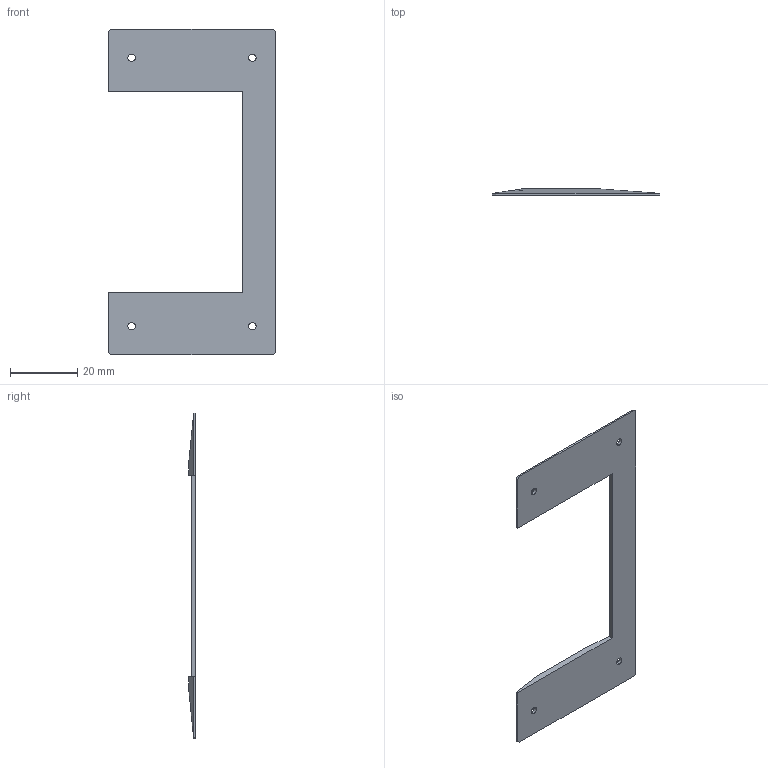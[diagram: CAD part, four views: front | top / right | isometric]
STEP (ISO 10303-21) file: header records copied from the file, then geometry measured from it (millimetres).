
FILE_DESCRIPTION((''),'2;1');
FILE_NAME('OP3_UPPER_FOOT_CASE_VER1','2017-07-25T',('kimdolyang'),(''),'PRO/ENGINEER BY PARAMETRIC TECHNOLOGY CORPORATION, 2013410','PRO/ENGINEER BY PARAMETRIC TECHNOLOGY CORPORATION, 2013410','');
FILE_SCHEMA(('CONFIG_CONTROL_DESIGN'));
Length unit declared in the file: millimetre
Products named in the file (1): OP3_UPPER_FOOT_CASE_VER1
Bounding box: 50 x 2 x 97 mm (x, y, z)
Volume: 2692 mm3; surface area: 5243 mm2
Topology: 1 solids, 1 shells, 38 faces, 108 edges, 72 vertices
Faces by surface type: plane 24, cylinder 14
Entity records: 1376 total; most frequent: CARTESIAN_POINT 328, ORIENTED_EDGE 216, DIRECTION 196, EDGE_CURVE 108, VECTOR 72, LINE 72, VERTEX_POINT 72, AXIS2_PLACEMENT_3D 62
